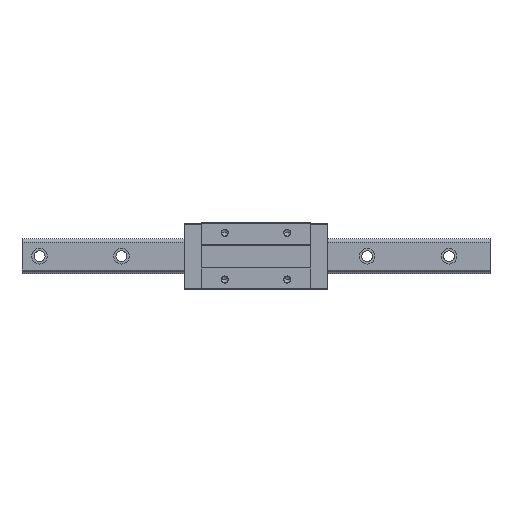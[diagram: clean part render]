
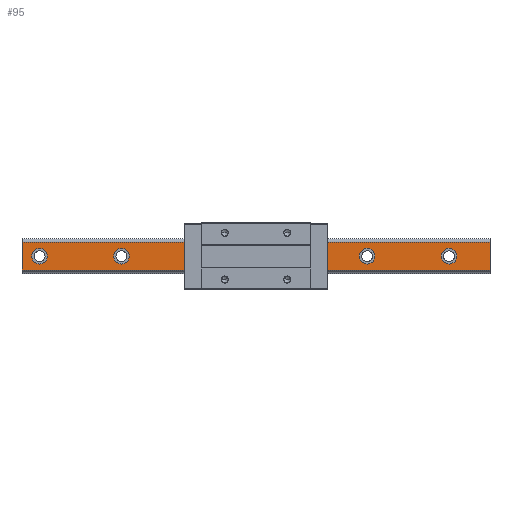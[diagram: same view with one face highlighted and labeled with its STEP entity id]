
A CAD part, top view. The second image highlights one B-rep face of the part: STEP entity #95.
In plain terms, the highlighted planar face has unit normal (0, 0, 1).
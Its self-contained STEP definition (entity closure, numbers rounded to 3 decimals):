
#29 = VERTEX_POINT ( 'NONE', #5110 ) ;
#51 = VERTEX_POINT ( 'NONE', #4266 ) ;
#88 = ORIENTED_EDGE ( 'NONE', *, *, #4831, .F. ) ;
#95 = ADVANCED_FACE ( 'NONE', ( #2513, #1235, #1596, #331, #2054, #3439, #5145 ), #5168, .F. ) ;
#98 = CARTESIAN_POINT ( 'NONE',  ( 37.5, 0., 32. ) ) ;
#212 = EDGE_CURVE ( 'NONE', #2996, #1920, #5223, .T. ) ;
#220 = CARTESIAN_POINT ( 'NONE',  ( -277.5, 0., 32. ) ) ;
#238 = CARTESIAN_POINT ( 'NONE',  ( -277.5, 0., 32. ) ) ;
#269 = ORIENTED_EDGE ( 'NONE', *, *, #344, .F. ) ;
#292 = CIRCLE ( 'NONE', #1005, 10. ) ;
#302 = DIRECTION ( 'NONE',  ( 0., 0., 1. ) ) ;
#331 = FACE_BOUND ( 'NONE', #2824, .T. ) ;
#333 = ORIENTED_EDGE ( 'NONE', *, *, #4908, .F. ) ;
#344 = EDGE_CURVE ( 'NONE', #3604, #3223, #2759, .T. ) ;
#439 = DIRECTION ( 'NONE',  ( -1., 0., 0. ) ) ;
#461 = CIRCLE ( 'NONE', #994, 10. ) ;
#467 = CARTESIAN_POINT ( 'NONE',  ( 132.5, 0., 32. ) ) ;
#483 = CIRCLE ( 'NONE', #571, 10. ) ;
#571 = AXIS2_PLACEMENT_3D ( 'NONE', #3235, #3674, #2809 ) ;
#662 = CIRCLE ( 'NONE', #3470, 10. ) ;
#676 = CIRCLE ( 'NONE', #5116, 10. ) ;
#685 = EDGE_CURVE ( 'NONE', #1250, #3501, #676, .T. ) ;
#687 = ORIENTED_EDGE ( 'NONE', *, *, #5403, .F. ) ;
#775 = VERTEX_POINT ( 'NONE', #3230 ) ;
#899 = CARTESIAN_POINT ( 'NONE',  ( 300., -17.696, 32. ) ) ;
#935 = AXIS2_PLACEMENT_3D ( 'NONE', #2394, #3305, #1478 ) ;
#994 = AXIS2_PLACEMENT_3D ( 'NONE', #220, #1941, #4513 ) ;
#996 = CARTESIAN_POINT ( 'NONE',  ( -162.5, 0., 32. ) ) ;
#1005 = AXIS2_PLACEMENT_3D ( 'NONE', #98, #3191, #4876 ) ;
#1019 = LINE ( 'NONE', #4986, #2187 ) ;
#1088 = DIRECTION ( 'NONE',  ( 0., 0., 1. ) ) ;
#1090 = EDGE_CURVE ( 'NONE', #1717, #51, #4066, .T. ) ;
#1106 = EDGE_CURVE ( 'NONE', #3223, #3604, #461, .T. ) ;
#1157 = ORIENTED_EDGE ( 'NONE', *, *, #1106, .F. ) ;
#1235 = FACE_BOUND ( 'NONE', #4389, .T. ) ;
#1250 = VERTEX_POINT ( 'NONE', #4628 ) ;
#1262 = CARTESIAN_POINT ( 'NONE',  ( 247.5, 0., 32. ) ) ;
#1286 = DIRECTION ( 'NONE',  ( 0., 0., -1. ) ) ;
#1321 = EDGE_LOOP ( 'NONE', ( #269, #1157 ) ) ;
#1351 = DIRECTION ( 'NONE',  ( 1., 0., 0. ) ) ;
#1359 = CARTESIAN_POINT ( 'NONE',  ( 300., 17.696, 32. ) ) ;
#1389 = VECTOR ( 'NONE', #439, 1000. ) ;
#1472 = AXIS2_PLACEMENT_3D ( 'NONE', #4296, #1286, #3776 ) ;
#1478 = DIRECTION ( 'NONE',  ( 1., 0., 0. ) ) ;
#1494 = VERTEX_POINT ( 'NONE', #467 ) ;
#1585 = ORIENTED_EDGE ( 'NONE', *, *, #3122, .F. ) ;
#1596 = FACE_BOUND ( 'NONE', #4219, .T. ) ;
#1717 = VERTEX_POINT ( 'NONE', #3732 ) ;
#1790 = VERTEX_POINT ( 'NONE', #5015 ) ;
#1868 = CARTESIAN_POINT ( 'NONE',  ( -172.5, 0., 32. ) ) ;
#1920 = VERTEX_POINT ( 'NONE', #3372 ) ;
#1941 = DIRECTION ( 'NONE',  ( 0., 0., 1. ) ) ;
#2026 = DIRECTION ( 'NONE',  ( 1., 0., 0. ) ) ;
#2027 = EDGE_CURVE ( 'NONE', #2996, #2111, #3088, .T. ) ;
#2054 = FACE_BOUND ( 'NONE', #2928, .T. ) ;
#2111 = VERTEX_POINT ( 'NONE', #899 ) ;
#2159 = VERTEX_POINT ( 'NONE', #4100 ) ;
#2187 = VECTOR ( 'NONE', #5446, 1000. ) ;
#2283 = AXIS2_PLACEMENT_3D ( 'NONE', #1262, #4718, #3866 ) ;
#2319 = DIRECTION ( 'NONE',  ( 0., 0., 1. ) ) ;
#2331 = CARTESIAN_POINT ( 'NONE',  ( -57.5, 0., 32. ) ) ;
#2368 = VECTOR ( 'NONE', #3484, 1000. ) ;
#2392 = AXIS2_PLACEMENT_3D ( 'NONE', #238, #4053, #4533 ) ;
#2394 = CARTESIAN_POINT ( 'NONE',  ( 142.5, 0., 32. ) ) ;
#2462 = VERTEX_POINT ( 'NONE', #4051 ) ;
#2513 = FACE_BOUND ( 'NONE', #3227, .T. ) ;
#2547 = AXIS2_PLACEMENT_3D ( 'NONE', #4181, #302, #2026 ) ;
#2646 = CIRCLE ( 'NONE', #935, 10. ) ;
#2759 = CIRCLE ( 'NONE', #2392, 10. ) ;
#2809 = DIRECTION ( 'NONE',  ( 1., 0., 0. ) ) ;
#2812 = EDGE_CURVE ( 'NONE', #775, #5324, #662, .T. ) ;
#2824 = EDGE_LOOP ( 'NONE', ( #1585, #5072 ) ) ;
#2860 = ORIENTED_EDGE ( 'NONE', *, *, #5290, .F. ) ;
#2925 = EDGE_CURVE ( 'NONE', #2462, #1790, #483, .T. ) ;
#2928 = EDGE_LOOP ( 'NONE', ( #333, #3947 ) ) ;
#2996 = VERTEX_POINT ( 'NONE', #5386 ) ;
#3088 = LINE ( 'NONE', #5291, #2368 ) ;
#3093 = EDGE_LOOP ( 'NONE', ( #3362, #88, #5559, #4763 ) ) ;
#3094 = DIRECTION ( 'NONE',  ( 1., 0., 0. ) ) ;
#3122 = EDGE_CURVE ( 'NONE', #3501, #1250, #4201, .T. ) ;
#3191 = DIRECTION ( 'NONE',  ( 0., 0., 1. ) ) ;
#3223 = VERTEX_POINT ( 'NONE', #5235 ) ;
#3227 = EDGE_LOOP ( 'NONE', ( #3858, #2860 ) ) ;
#3230 = CARTESIAN_POINT ( 'NONE',  ( -182.5, 0., 32. ) ) ;
#3235 = CARTESIAN_POINT ( 'NONE',  ( 37.5, 0., 32. ) ) ;
#3297 = ORIENTED_EDGE ( 'NONE', *, *, #2925, .F. ) ;
#3305 = DIRECTION ( 'NONE',  ( 0., 0., 1. ) ) ;
#3362 = ORIENTED_EDGE ( 'NONE', *, *, #4735, .T. ) ;
#3372 = CARTESIAN_POINT ( 'NONE',  ( -300., 17.696, 32. ) ) ;
#3427 = CARTESIAN_POINT ( 'NONE',  ( -67.5, 0., 32. ) ) ;
#3432 = CARTESIAN_POINT ( 'NONE',  ( -172.5, 0., 32. ) ) ;
#3439 = FACE_BOUND ( 'NONE', #1321, .T. ) ;
#3470 = AXIS2_PLACEMENT_3D ( 'NONE', #1868, #4443, #1351 ) ;
#3484 = DIRECTION ( 'NONE',  ( 0., -1., 0. ) ) ;
#3501 = VERTEX_POINT ( 'NONE', #2331 ) ;
#3531 = EDGE_CURVE ( 'NONE', #1494, #2159, #2646, .T. ) ;
#3604 = VERTEX_POINT ( 'NONE', #5455 ) ;
#3628 = CIRCLE ( 'NONE', #4721, 10. ) ;
#3674 = DIRECTION ( 'NONE',  ( 0., 0., 1. ) ) ;
#3732 = CARTESIAN_POINT ( 'NONE',  ( 257.5, 0., 32. ) ) ;
#3738 = DIRECTION ( 'NONE',  ( 0., 0., 1. ) ) ;
#3776 = DIRECTION ( 'NONE',  ( -1., 0., 0. ) ) ;
#3788 = DIRECTION ( 'NONE',  ( 0., 0., 1. ) ) ;
#3808 = EDGE_CURVE ( 'NONE', #2159, #1494, #3628, .T. ) ;
#3856 = DIRECTION ( 'NONE',  ( -1., 0., 0. ) ) ;
#3858 = ORIENTED_EDGE ( 'NONE', *, *, #1090, .F. ) ;
#3866 = DIRECTION ( 'NONE',  ( 1., 0., 0. ) ) ;
#3947 = ORIENTED_EDGE ( 'NONE', *, *, #2812, .F. ) ;
#3956 = CARTESIAN_POINT ( 'NONE',  ( 142.5, 0., 32. ) ) ;
#4051 = CARTESIAN_POINT ( 'NONE',  ( 47.5, 0., 32. ) ) ;
#4053 = DIRECTION ( 'NONE',  ( 0., 0., 1. ) ) ;
#4066 = CIRCLE ( 'NONE', #2547, 10. ) ;
#4100 = CARTESIAN_POINT ( 'NONE',  ( 152.5, 0., 32. ) ) ;
#4181 = CARTESIAN_POINT ( 'NONE',  ( 247.5, 0., 32. ) ) ;
#4192 = CARTESIAN_POINT ( 'NONE',  ( -67.5, 0., 32. ) ) ;
#4201 = CIRCLE ( 'NONE', #4821, 10. ) ;
#4219 = EDGE_LOOP ( 'NONE', ( #3297, #687 ) ) ;
#4266 = CARTESIAN_POINT ( 'NONE',  ( 237.5, 0., 32. ) ) ;
#4296 = CARTESIAN_POINT ( 'NONE',  ( 300., -17.696, 32. ) ) ;
#4311 = DIRECTION ( 'NONE',  ( 1., 0., 0. ) ) ;
#4372 = ORIENTED_EDGE ( 'NONE', *, *, #3808, .F. ) ;
#4389 = EDGE_LOOP ( 'NONE', ( #4372, #5047 ) ) ;
#4443 = DIRECTION ( 'NONE',  ( 0., 0., 1. ) ) ;
#4494 = DIRECTION ( 'NONE',  ( 1., 0., 0. ) ) ;
#4513 = DIRECTION ( 'NONE',  ( 1., 0., 0. ) ) ;
#4533 = DIRECTION ( 'NONE',  ( 1., 0., 0. ) ) ;
#4613 = LINE ( 'NONE', #4653, #5451 ) ;
#4628 = CARTESIAN_POINT ( 'NONE',  ( -77.5, 0., 32. ) ) ;
#4653 = CARTESIAN_POINT ( 'NONE',  ( 300., -17.696, 32. ) ) ;
#4718 = DIRECTION ( 'NONE',  ( 0., 0., 1. ) ) ;
#4721 = AXIS2_PLACEMENT_3D ( 'NONE', #3956, #2319, #4494 ) ;
#4735 = EDGE_CURVE ( 'NONE', #1920, #29, #1019, .T. ) ;
#4763 = ORIENTED_EDGE ( 'NONE', *, *, #212, .T. ) ;
#4809 = CIRCLE ( 'NONE', #2283, 10. ) ;
#4821 = AXIS2_PLACEMENT_3D ( 'NONE', #3427, #3788, #4311 ) ;
#4831 = EDGE_CURVE ( 'NONE', #2111, #29, #4613, .T. ) ;
#4876 = DIRECTION ( 'NONE',  ( 1., 0., 0. ) ) ;
#4908 = EDGE_CURVE ( 'NONE', #5324, #775, #5541, .T. ) ;
#4986 = CARTESIAN_POINT ( 'NONE',  ( -300., -17.696, 32. ) ) ;
#4992 = AXIS2_PLACEMENT_3D ( 'NONE', #3432, #3738, #3094 ) ;
#5015 = CARTESIAN_POINT ( 'NONE',  ( 27.5, 0., 32. ) ) ;
#5047 = ORIENTED_EDGE ( 'NONE', *, *, #3531, .F. ) ;
#5067 = DIRECTION ( 'NONE',  ( 1., 0., 0. ) ) ;
#5072 = ORIENTED_EDGE ( 'NONE', *, *, #685, .F. ) ;
#5110 = CARTESIAN_POINT ( 'NONE',  ( -300., -17.696, 32. ) ) ;
#5116 = AXIS2_PLACEMENT_3D ( 'NONE', #4192, #1088, #5067 ) ;
#5145 = FACE_OUTER_BOUND ( 'NONE', #3093, .T. ) ;
#5168 = PLANE ( 'NONE',  #1472 ) ;
#5223 = LINE ( 'NONE', #1359, #1389 ) ;
#5235 = CARTESIAN_POINT ( 'NONE',  ( -287.5, 0., 32. ) ) ;
#5290 = EDGE_CURVE ( 'NONE', #51, #1717, #4809, .T. ) ;
#5291 = CARTESIAN_POINT ( 'NONE',  ( 300., -17.696, 32. ) ) ;
#5324 = VERTEX_POINT ( 'NONE', #996 ) ;
#5386 = CARTESIAN_POINT ( 'NONE',  ( 300., 17.696, 32. ) ) ;
#5403 = EDGE_CURVE ( 'NONE', #1790, #2462, #292, .T. ) ;
#5446 = DIRECTION ( 'NONE',  ( 0., -1., 0. ) ) ;
#5451 = VECTOR ( 'NONE', #3856, 1000. ) ;
#5455 = CARTESIAN_POINT ( 'NONE',  ( -267.5, 0., 32. ) ) ;
#5541 = CIRCLE ( 'NONE', #4992, 10. ) ;
#5559 = ORIENTED_EDGE ( 'NONE', *, *, #2027, .F. ) ;
